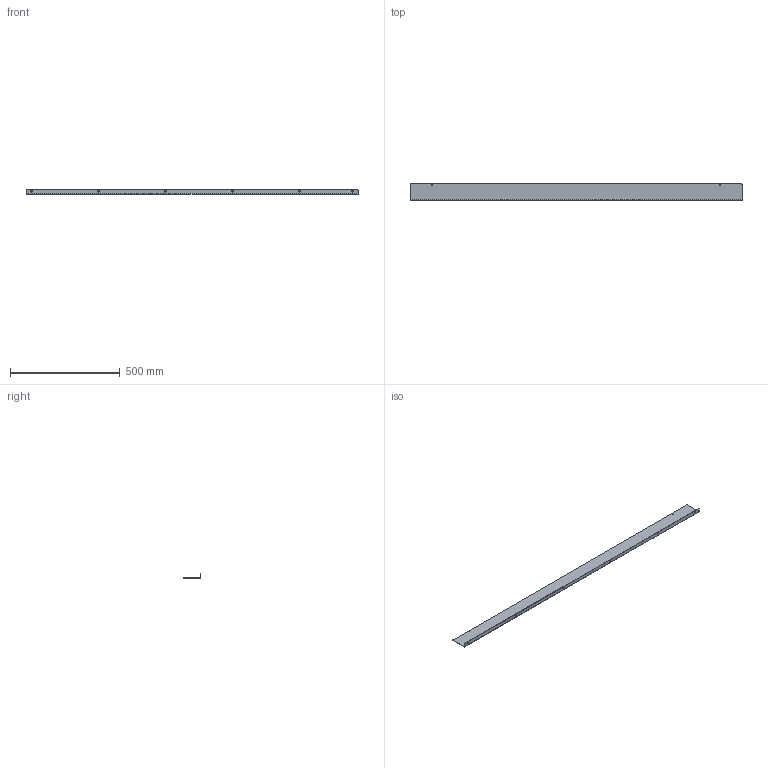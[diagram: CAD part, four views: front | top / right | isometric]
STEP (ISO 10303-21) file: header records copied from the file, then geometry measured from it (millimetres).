
FILE_DESCRIPTION((''),'2;1');
FILE_NAME('C:\Vault_Workspace\Inventor_Dwg\Inv-1\1100BA\WEBSITE\1100BA4060.stp','2015-02-02T15:09:04',('MichaelA'),(''),'Autodesk Inventor 2012','Autodesk Inventor 2012','');
FILE_SCHEMA(('AUTOMOTIVE_DESIGN { 1 0 10303 214 1 1 1 1 }'));
Length unit declared in the file: inch
Products named in the file (1): 1100BA-MASTER
Bounding box: 1511.3 x 76.2 x 19.05 mm (x, y, z)
Volume: 196412.2 mm3; surface area: 285894.3 mm2
Topology: 1 solids, 1 shells, 26 faces, 64 edges, 40 vertices
Faces by surface type: cylinder 14, plane 12
Full cylindrical faces by diameter (mm): 4.496 x2, 7.137 x6
Entity records: 792 total; most frequent: DIRECTION 138, CARTESIAN_POINT 123, ORIENTED_EDGE 112, EDGE_CURVE 56, AXIS2_PLACEMENT_3D 55, EDGE_LOOP 50, VERTEX_POINT 40, CIRCLE 28
